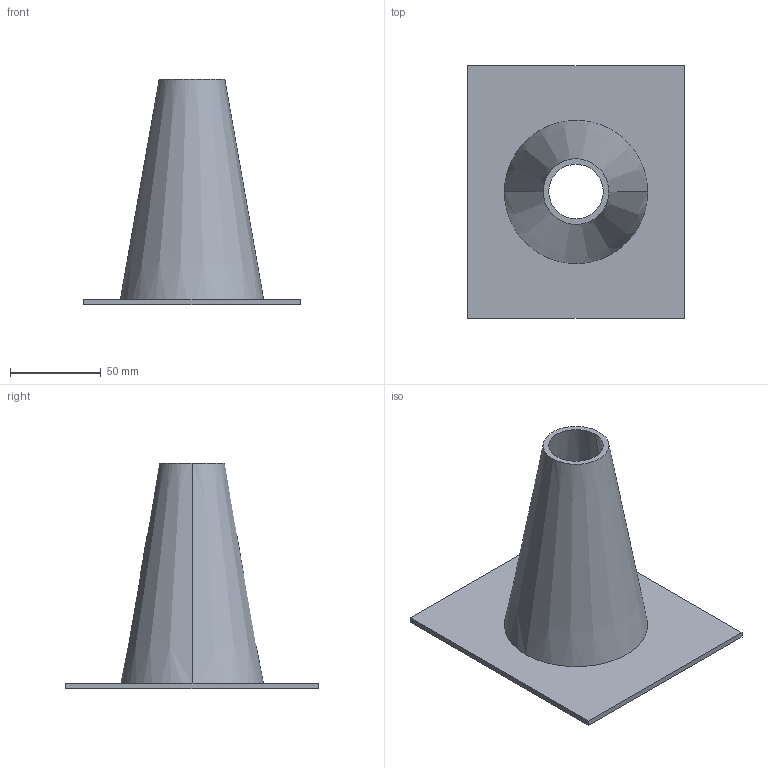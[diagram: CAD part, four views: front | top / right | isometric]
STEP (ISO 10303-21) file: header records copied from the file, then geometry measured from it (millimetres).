
FILE_DESCRIPTION(('CATIA V5 STEP Exchange'),'2;1');
FILE_NAME('C:\_Andres\UNIVERSIDAD\IQS\ASIGNATURAS\DAO\EXF\EXF-15161c\1original\Wand_Domenech_Ej08-ensambla_v29.stp','2016-03-04T21:37:20+00:00',('none'),('none'),'CATIA Version 5 Release 20 SP 1 (IN-10)','CATIA V5 STEP AP203','none');
FILE_SCHEMA(('CONFIG_CONTROL_DESIGN'));
Length unit declared in the file: millimetre
Products named in the file (1): Wand_Domenech_Ej08-ensambla_v29
Bounding box: 119 x 139 x 124 mm (x, y, z)
Volume: 99971.1 mm3; surface area: 68487.5 mm2
Topology: 1 solids, 1 shells, 11 faces, 24 edges, 16 vertices
Faces by surface type: plane 7, cone 4
Entity records: 414 total; most frequent: CARTESIAN_POINT 127, ORIENTED_EDGE 48, DIRECTION 44, EDGE_CURVE 24, AXIS2_PLACEMENT_3D 17, VECTOR 16, LINE 16, VERTEX_POINT 16
